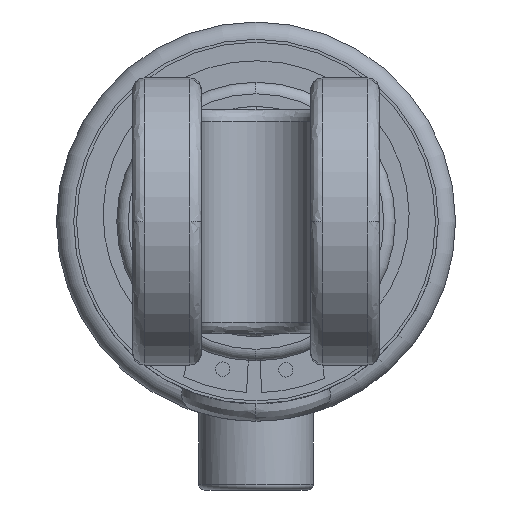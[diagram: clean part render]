
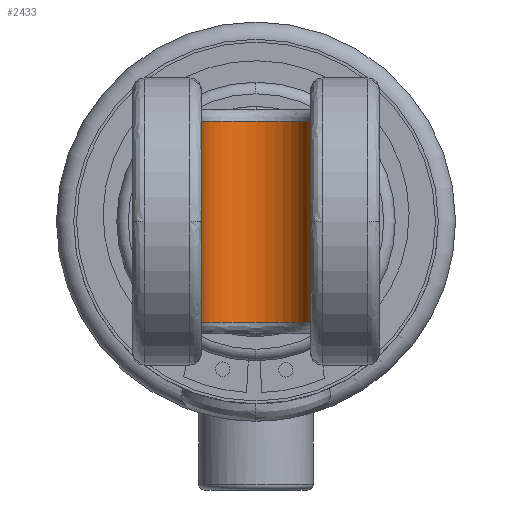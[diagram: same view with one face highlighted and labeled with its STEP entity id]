
A CAD part, left-side view. The second image highlights one B-rep face of the part: STEP entity #2433.
In plain terms, the highlighted cylindrical face has radius 9.5 mm (diameter 19 mm), a partial arc.
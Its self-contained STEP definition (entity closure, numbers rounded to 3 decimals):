
#521 = EDGE_CURVE ( 'NONE', #4069, #549, #11227, .T. ) ;
#549 = VERTEX_POINT ( 'NONE', #7167 ) ;
#1233 = CARTESIAN_POINT ( 'NONE',  ( 0.293, -17.446, -17.5 ) ) ;
#1460 = CIRCLE ( 'NONE', #18319, 9.5 ) ;
#1760 = VERTEX_POINT ( 'NONE', #22058 ) ;
#2131 = VERTEX_POINT ( 'NONE', #1233 ) ;
#2433 = ADVANCED_FACE ( 'NONE', ( #22549 ), #16936, .F. ) ;
#2513 = EDGE_CURVE ( 'NONE', #549, #2131, #1460, .T. ) ;
#3213 = EDGE_LOOP ( 'NONE', ( #12767, #8193, #23485, #24097 ) ) ;
#3240 = DIRECTION ( 'NONE',  ( 0., 0., -1. ) ) ;
#3272 = DIRECTION ( 'NONE',  ( 1., 0., 0. ) ) ;
#4069 = VERTEX_POINT ( 'NONE', #12415 ) ;
#6052 = VECTOR ( 'NONE', #3240, 1000. ) ;
#6749 = DIRECTION ( 'NONE',  ( 0., 0., -1. ) ) ;
#7167 = CARTESIAN_POINT ( 'NONE',  ( 0.293, 1.554, -17.5 ) ) ;
#7786 = EDGE_CURVE ( 'NONE', #1760, #4069, #12624, .T. ) ;
#8193 = ORIENTED_EDGE ( 'NONE', *, *, #2513, .F. ) ;
#9038 = CARTESIAN_POINT ( 'NONE',  ( 0.293, 1.554, -19.5 ) ) ;
#10260 = CARTESIAN_POINT ( 'NONE',  ( 0.293, -17.446, -19.5 ) ) ;
#10398 = DIRECTION ( 'NONE',  ( 0., 0., 1. ) ) ;
#11227 = LINE ( 'NONE', #9038, #6052 ) ;
#12415 = CARTESIAN_POINT ( 'NONE',  ( 0.293, 1.554, 17.5 ) ) ;
#12624 = CIRCLE ( 'NONE', #20696, 9.5 ) ;
#12767 = ORIENTED_EDGE ( 'NONE', *, *, #13792, .F. ) ;
#13099 = LINE ( 'NONE', #10260, #19371 ) ;
#13792 = EDGE_CURVE ( 'NONE', #2131, #1760, #13099, .T. ) ;
#16830 = DIRECTION ( 'NONE',  ( 0., 0., 1. ) ) ;
#16936 = CYLINDRICAL_SURFACE ( 'NONE', #20832, 9.5 ) ;
#18310 = CARTESIAN_POINT ( 'NONE',  ( 0.293, -7.946, 17.5 ) ) ;
#18319 = AXIS2_PLACEMENT_3D ( 'NONE', #21850, #10398, #23772 ) ;
#19371 = VECTOR ( 'NONE', #23641, 1000. ) ;
#20202 = DIRECTION ( 'NONE',  ( 1., 0., 0. ) ) ;
#20553 = CARTESIAN_POINT ( 'NONE',  ( 0.293, -7.946, -19.5 ) ) ;
#20696 = AXIS2_PLACEMENT_3D ( 'NONE', #18310, #6749, #20202 ) ;
#20832 = AXIS2_PLACEMENT_3D ( 'NONE', #20553, #16830, #3272 ) ;
#21850 = CARTESIAN_POINT ( 'NONE',  ( 0.293, -7.946, -17.5 ) ) ;
#22058 = CARTESIAN_POINT ( 'NONE',  ( 0.293, -17.446, 17.5 ) ) ;
#22549 = FACE_OUTER_BOUND ( 'NONE', #3213, .T. ) ;
#23485 = ORIENTED_EDGE ( 'NONE', *, *, #521, .F. ) ;
#23641 = DIRECTION ( 'NONE',  ( 0., 0., 1. ) ) ;
#23772 = DIRECTION ( 'NONE',  ( 1., 0., 0. ) ) ;
#24097 = ORIENTED_EDGE ( 'NONE', *, *, #7786, .F. ) ;
